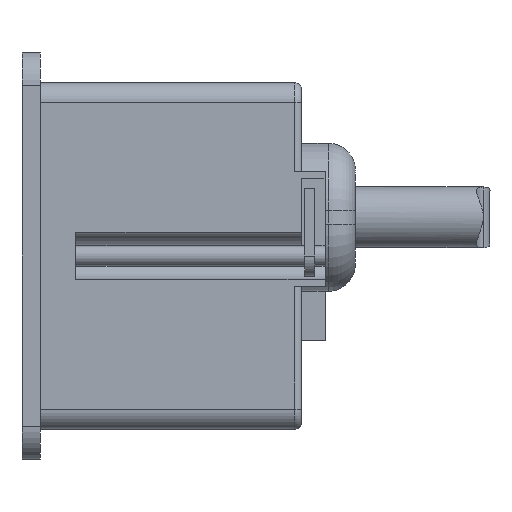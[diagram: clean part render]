
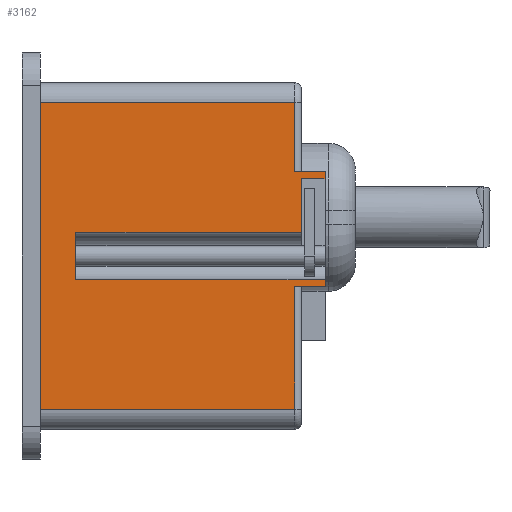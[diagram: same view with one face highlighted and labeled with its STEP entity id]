
A CAD part, left-side view. The second image highlights one B-rep face of the part: STEP entity #3162.
In plain terms, the highlighted planar face has unit normal (-1, 0, 0).
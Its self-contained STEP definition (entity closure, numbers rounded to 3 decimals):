
#36 = CARTESIAN_POINT ( 'NONE',  ( -90.1, 0., 25.75 ) ) ;
#54 = CARTESIAN_POINT ( 'NONE',  ( -90.1, 1., 12.5 ) ) ;
#98 = LINE ( 'NONE', #1067, #4763 ) ;
#115 = VECTOR ( 'NONE', #1375, 1000. ) ;
#161 = DIRECTION ( 'NONE',  ( 0., -1., 0. ) ) ;
#166 = DIRECTION ( 'NONE',  ( 0., 1., 0. ) ) ;
#228 = DIRECTION ( 'NONE',  ( 0., 1., 0. ) ) ;
#255 = VERTEX_POINT ( 'NONE', #1328 ) ;
#553 = DIRECTION ( 'NONE',  ( 0., 0., 1. ) ) ;
#580 = DIRECTION ( 'NONE',  ( 0., 0., 1. ) ) ;
#618 = CARTESIAN_POINT ( 'NONE',  ( -90.1, 0., 11.5 ) ) ;
#971 = VECTOR ( 'NONE', #3616, 1000. ) ;
#973 = ORIENTED_EDGE ( 'NONE', *, *, #2295, .F. ) ;
#994 = LINE ( 'NONE', #3000, #1369 ) ;
#1014 = FACE_OUTER_BOUND ( 'NONE', #4598, .T. ) ;
#1019 = ORIENTED_EDGE ( 'NONE', *, *, #5199, .F. ) ;
#1067 = CARTESIAN_POINT ( 'NONE',  ( -90.1, 51.399, -3.5 ) ) ;
#1084 = LINE ( 'NONE', #3089, #5577 ) ;
#1143 = EDGE_CURVE ( 'NONE', #4720, #3694, #2690, .T. ) ;
#1164 = DIRECTION ( 'NONE',  ( 0., -1., 0. ) ) ;
#1242 = LINE ( 'NONE', #4771, #6118 ) ;
#1328 = CARTESIAN_POINT ( 'NONE',  ( -90.1, 1., -4.5 ) ) ;
#1352 = CARTESIAN_POINT ( 'NONE',  ( -90.1, 38.8, 22.75 ) ) ;
#1369 = VECTOR ( 'NONE', #5009, 1000. ) ;
#1375 = DIRECTION ( 'NONE',  ( 0., 1., 0. ) ) ;
#1378 = EDGE_CURVE ( 'NONE', #3217, #3694, #3035, .T. ) ;
#1423 = EDGE_CURVE ( 'NONE', #5578, #6057, #3663, .T. ) ;
#1468 = VECTOR ( 'NONE', #5079, 1000. ) ;
#1586 = VECTOR ( 'NONE', #2445, 1000. ) ;
#1599 = CARTESIAN_POINT ( 'NONE',  ( -90.1, 33.5, 3.5 ) ) ;
#1607 = LINE ( 'NONE', #4168, #971 ) ;
#1630 = CARTESIAN_POINT ( 'NONE',  ( -90.1, 51.399, 3.5 ) ) ;
#1650 = ORIENTED_EDGE ( 'NONE', *, *, #5330, .F. ) ;
#1657 = EDGE_CURVE ( 'NONE', #4286, #6022, #5368, .T. ) ;
#1718 = ORIENTED_EDGE ( 'NONE', *, *, #2908, .T. ) ;
#1738 = ORIENTED_EDGE ( 'NONE', *, *, #5642, .F. ) ;
#1739 = VERTEX_POINT ( 'NONE', #3061 ) ;
#1790 = EDGE_CURVE ( 'NONE', #4801, #5578, #994, .T. ) ;
#1791 = VERTEX_POINT ( 'NONE', #2505 ) ;
#1957 = DIRECTION ( 'NONE',  ( 0., 0., -1. ) ) ;
#2015 = VECTOR ( 'NONE', #1957, 1000. ) ;
#2119 = LINE ( 'NONE', #5892, #115 ) ;
#2216 = VECTOR ( 'NONE', #228, 1000. ) ;
#2235 = CARTESIAN_POINT ( 'NONE',  ( -90.1, 38.8, -22.75 ) ) ;
#2271 = DIRECTION ( 'NONE',  ( 0., 0., -1. ) ) ;
#2295 = EDGE_CURVE ( 'NONE', #1791, #4720, #1242, .T. ) ;
#2364 = ORIENTED_EDGE ( 'NONE', *, *, #1423, .T. ) ;
#2445 = DIRECTION ( 'NONE',  ( 0., -1., 0. ) ) ;
#2505 = CARTESIAN_POINT ( 'NONE',  ( -90.1, -3.5, 12.5 ) ) ;
#2506 = VERTEX_POINT ( 'NONE', #1599 ) ;
#2531 = LINE ( 'NONE', #3951, #5399 ) ;
#2568 = PLANE ( 'NONE',  #4658 ) ;
#2625 = CARTESIAN_POINT ( 'NONE',  ( -90.1, 0., 3.5 ) ) ;
#2651 = CARTESIAN_POINT ( 'NONE',  ( -90.1, 1., 22.75 ) ) ;
#2665 = CARTESIAN_POINT ( 'NONE',  ( -90.1, -3.5, -4.5 ) ) ;
#2690 = LINE ( 'NONE', #4696, #4308 ) ;
#2705 = EDGE_CURVE ( 'NONE', #1739, #3336, #6442, .T. ) ;
#2885 = CARTESIAN_POINT ( 'NONE',  ( -90.1, -3.5, 0. ) ) ;
#2908 = EDGE_CURVE ( 'NONE', #1791, #4801, #2119, .T. ) ;
#2960 = CARTESIAN_POINT ( 'NONE',  ( -90.1, 41.5, 25.75 ) ) ;
#3000 = CARTESIAN_POINT ( 'NONE',  ( -90.1, 1., 22.75 ) ) ;
#3035 = LINE ( 'NONE', #36, #1468 ) ;
#3061 = CARTESIAN_POINT ( 'NONE',  ( -90.1, -3.5, -3.5 ) ) ;
#3089 = CARTESIAN_POINT ( 'NONE',  ( -90.1, 1., -4.5 ) ) ;
#3162 = ADVANCED_FACE ( 'NONE', ( #1014 ), #2568, .F. ) ;
#3176 = CARTESIAN_POINT ( 'NONE',  ( -90.1, 1., -22.75 ) ) ;
#3217 = VERTEX_POINT ( 'NONE', #2625 ) ;
#3336 = VERTEX_POINT ( 'NONE', #2665 ) ;
#3480 = ORIENTED_EDGE ( 'NONE', *, *, #6497, .T. ) ;
#3616 = DIRECTION ( 'NONE',  ( 0., 1., 0. ) ) ;
#3663 = LINE ( 'NONE', #5770, #2216 ) ;
#3694 = VERTEX_POINT ( 'NONE', #618 ) ;
#3775 = LINE ( 'NONE', #6319, #5491 ) ;
#3951 = CARTESIAN_POINT ( 'NONE',  ( -90.1, 33.5, 3.5 ) ) ;
#4122 = ORIENTED_EDGE ( 'NONE', *, *, #1378, .T. ) ;
#4168 = CARTESIAN_POINT ( 'NONE',  ( -90.1, -3.5, -4.5 ) ) ;
#4286 = VERTEX_POINT ( 'NONE', #2235 ) ;
#4294 = ORIENTED_EDGE ( 'NONE', *, *, #2705, .F. ) ;
#4308 = VECTOR ( 'NONE', #166, 1000. ) ;
#4488 = ORIENTED_EDGE ( 'NONE', *, *, #1657, .T. ) ;
#4515 = CARTESIAN_POINT ( 'NONE',  ( -90.1, 33.5, -3.5 ) ) ;
#4547 = CARTESIAN_POINT ( 'NONE',  ( -90.1, -3.5, 11.5 ) ) ;
#4598 = EDGE_LOOP ( 'NONE', ( #1718, #6217, #2364, #1650, #4488, #3480, #1019, #4294, #1738, #5745, #6049, #4122, #5985, #973 ) ) ;
#4658 = AXIS2_PLACEMENT_3D ( 'NONE', #2960, #5002, #4970 ) ;
#4696 = CARTESIAN_POINT ( 'NONE',  ( -90.1, -3.5, 11.5 ) ) ;
#4720 = VERTEX_POINT ( 'NONE', #4547 ) ;
#4763 = VECTOR ( 'NONE', #1164, 1000. ) ;
#4771 = CARTESIAN_POINT ( 'NONE',  ( -90.1, -3.5, 0. ) ) ;
#4801 = VERTEX_POINT ( 'NONE', #54 ) ;
#4970 = DIRECTION ( 'NONE',  ( 0., 0., -1. ) ) ;
#5002 = DIRECTION ( 'NONE',  ( 1., 0., 0. ) ) ;
#5009 = DIRECTION ( 'NONE',  ( 0., 0., 1. ) ) ;
#5079 = DIRECTION ( 'NONE',  ( 0., 0., 1. ) ) ;
#5199 = EDGE_CURVE ( 'NONE', #3336, #255, #1607, .T. ) ;
#5330 = EDGE_CURVE ( 'NONE', #4286, #6057, #3775, .T. ) ;
#5368 = LINE ( 'NONE', #5835, #1586 ) ;
#5399 = VECTOR ( 'NONE', #553, 1000. ) ;
#5491 = VECTOR ( 'NONE', #6358, 1000. ) ;
#5577 = VECTOR ( 'NONE', #580, 1000. ) ;
#5578 = VERTEX_POINT ( 'NONE', #2651 ) ;
#5642 = EDGE_CURVE ( 'NONE', #6200, #1739, #98, .T. ) ;
#5745 = ORIENTED_EDGE ( 'NONE', *, *, #6448, .T. ) ;
#5770 = CARTESIAN_POINT ( 'NONE',  ( -90.1, 41.5, 22.75 ) ) ;
#5835 = CARTESIAN_POINT ( 'NONE',  ( -90.1, 41.5, -22.75 ) ) ;
#5892 = CARTESIAN_POINT ( 'NONE',  ( -90.1, -3.5, 12.5 ) ) ;
#5961 = EDGE_CURVE ( 'NONE', #2506, #3217, #6113, .T. ) ;
#5985 = ORIENTED_EDGE ( 'NONE', *, *, #1143, .F. ) ;
#6022 = VERTEX_POINT ( 'NONE', #3176 ) ;
#6049 = ORIENTED_EDGE ( 'NONE', *, *, #5961, .T. ) ;
#6057 = VERTEX_POINT ( 'NONE', #1352 ) ;
#6113 = LINE ( 'NONE', #1630, #6139 ) ;
#6118 = VECTOR ( 'NONE', #2271, 1000. ) ;
#6139 = VECTOR ( 'NONE', #161, 1000. ) ;
#6200 = VERTEX_POINT ( 'NONE', #4515 ) ;
#6217 = ORIENTED_EDGE ( 'NONE', *, *, #1790, .T. ) ;
#6319 = CARTESIAN_POINT ( 'NONE',  ( -90.1, 38.8, -22.75 ) ) ;
#6358 = DIRECTION ( 'NONE',  ( 0., 0., 1. ) ) ;
#6442 = LINE ( 'NONE', #2885, #2015 ) ;
#6448 = EDGE_CURVE ( 'NONE', #6200, #2506, #2531, .T. ) ;
#6497 = EDGE_CURVE ( 'NONE', #6022, #255, #1084, .T. ) ;
